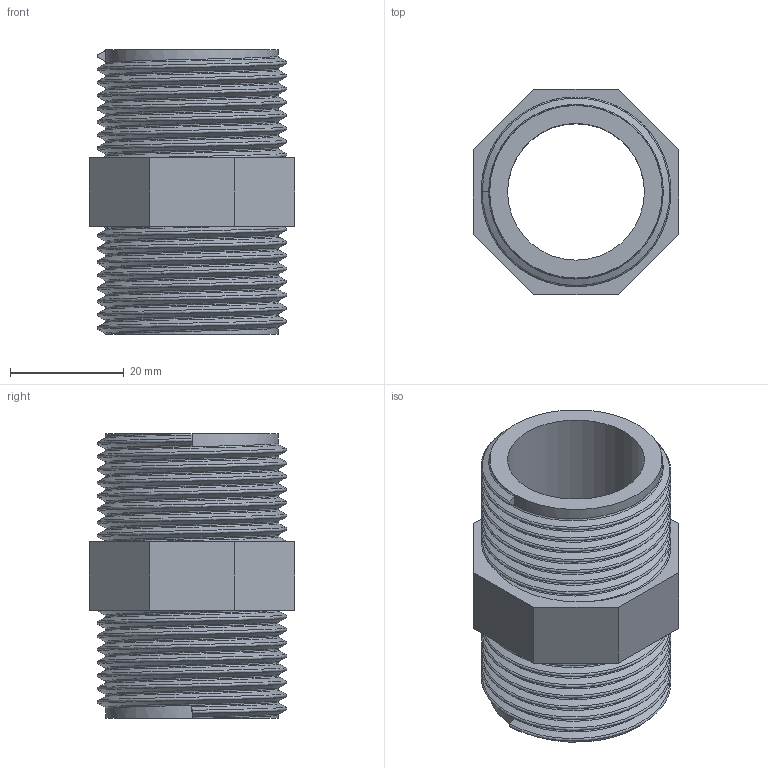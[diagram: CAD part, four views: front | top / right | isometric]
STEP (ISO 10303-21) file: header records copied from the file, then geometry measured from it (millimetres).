
FILE_DESCRIPTION(/* description */ ('PVC-U nipplo filettato BSP'),/* implementation_level */ '2;1');
FILE_NAME(/* name */ 'C:\Users\POLYPIPE\Desktop\DATASET INVENTOR\LIBRERIA EFFAST\RACCORDI 3DxWEB\RER\3D_RERNIE\3D_RERNIE032D.stp',/* time_stamp */ '2018-01-19T16:42:59+01:00',/* author */ ('POLYPIPE'),/* organization */ ('Polypipe Italia s.r.l.'),/* preprocessor_version */ 'ST-DEVELOPER v16.1',/* originating_system */ 'Autodesk Inventor 2016',/* authorisation */ '');
FILE_SCHEMA (('CONFIG_CONTROL_DESIGN'));
Length unit declared in the file: millimetre
Products named in the file (1): 3D_RERNIE
Bounding box: 36 x 36 x 50 mm (x, y, z)
Volume: 20254.7 mm3; surface area: 12612.9 mm2
Topology: 1 solids, 1 shells, 27 faces, 63 edges, 40 vertices
Faces by surface type: plane 14, bspline 10, cylinder 3
Full cylindrical faces by diameter (mm): 24 x1, 30.291 x2
Entity records: 6904 total; most frequent: CARTESIAN_POINT 6326, ORIENTED_EDGE 124, DIRECTION 86, EDGE_CURVE 62, VERTEX_POINT 40, EDGE_LOOP 32, LINE 30, VECTOR 30
